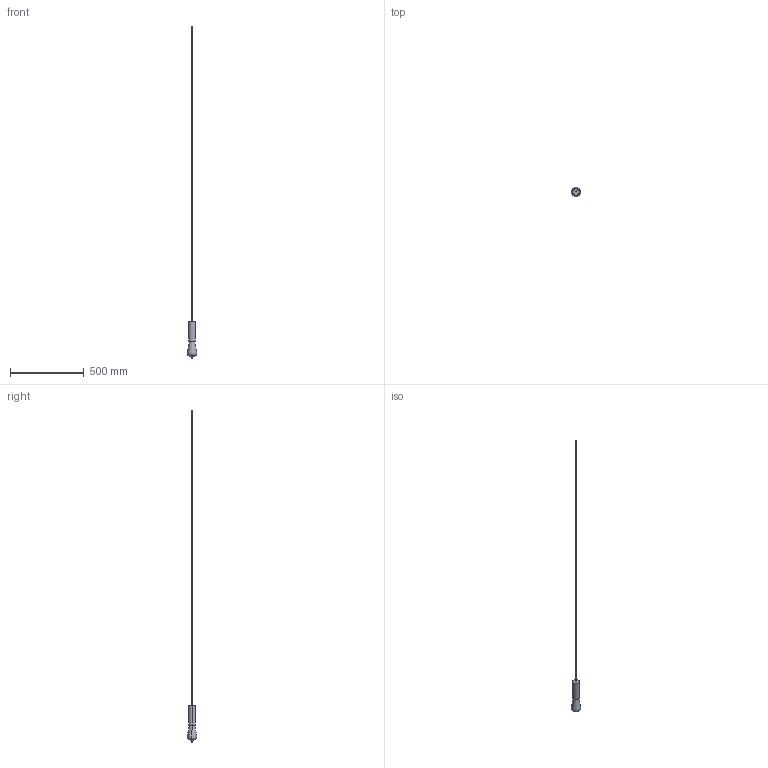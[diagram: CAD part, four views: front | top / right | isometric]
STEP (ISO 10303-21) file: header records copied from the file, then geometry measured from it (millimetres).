
FILE_DESCRIPTION(/* description */ (''),/* implementation_level */ '2;1');
FILE_NAME(/* name */ 'ILKW_CORE4.5_Pendant_3D',/* time_stamp */ '2026-08-28T17:06:59+09:00',/* author */ (''),/* organization */ (''),/* preprocessor_version */ 'ST-DEVELOPER v19.2',/* originating_system */ 'Rhino 8.21',/* authorisation */ '');
FILE_SCHEMA (('CONFIG_CONTROL_DESIGN'));
Length unit declared in the file: millimetre
Products named in the file (1): Document
Bounding box: 63.86 x 64 x 2249.53 mm (x, y, z)
Volume: 513069.7 mm3; surface area: 82905.7 mm2
Topology: 2 solids, 2 shells, 11 faces, 18 edges, 12 vertices
Faces by surface type: plane 5, cylinder 4, bspline 2
Entity records: 675 total; most frequent: CARTESIAN_POINT 403, ORIENTED_EDGE 36, DIRECTION 33, AXIS2_PLACEMENT_3D 21, EDGE_CURVE 18, EDGE_LOOP 12, VERTEX_POINT 12, ADVANCED_FACE 11
